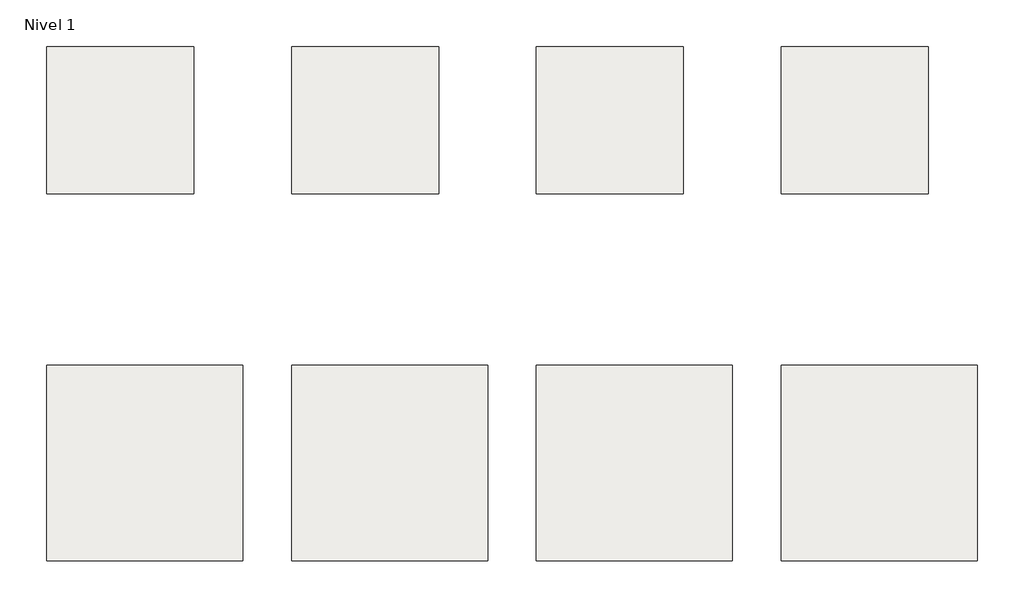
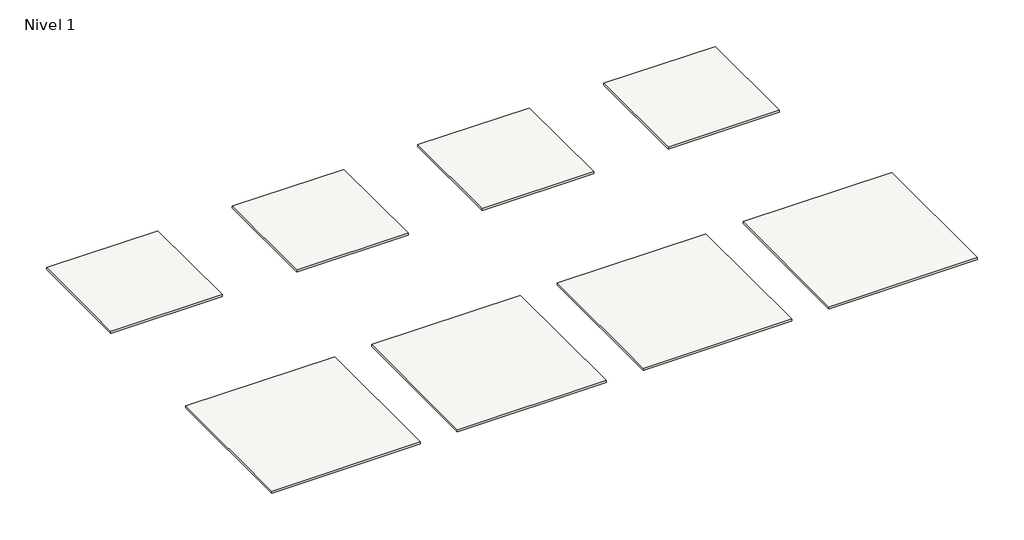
# One storey: 8 slabs.
"""IFC4 building model written with IfcOpenShell, lengths in millimetres."""

import ifcopenshell
import ifcopenshell.guid

model = None  # the IFC model being written
_history = None  # IfcOwnerHistory: only IFC2X3 demands one
_inside = {}  # id of a spatial element -> (the spatial element, [elements in it])
_under = {}  # id of a project, library or spatial element -> (it, [spatial elements below it])
_declared = {}  # id of a project -> (the project, [libraries it declares])
_typed = {}  # id of a type object -> (the type object, [elements of that type])
_made_of = {}  # id of a material, layer set ... -> (it, [elements and type objects made of it])


def new_model(schema):
    """Start an empty IFC model of exactly this schema.

    Asked for "IFC4X3", IfcOpenShell would pick the latest addendum, in which some entities
    have other attributes; the version numbers below select the first issue.
    IFC2X3 requires an IfcOwnerHistory on every rooted entity: one is made here for all.
    """
    global model, _history
    if schema == "IFC4X3":
        model = ifcopenshell.file(schema_version=(4, 3, 0, 0))
    else:
        model = ifcopenshell.file(schema=schema)
    _inside.clear()
    _under.clear()
    _declared.clear()
    _typed.clear()
    _made_of.clear()
    _history = None
    if model.schema == "IFC2X3":
        org = make("IfcOrganization", Name="unknown")
        user = make(
            "IfcPersonAndOrganization",
            ThePerson=make("IfcPerson", FamilyName="unknown"),
            TheOrganization=org,
        )
        app = make(
            "IfcApplication",
            ApplicationDeveloper=org,
            Version="unknown",
            ApplicationFullName="unknown",
            ApplicationIdentifier="unknown",
        )
        _history = make(
            "IfcOwnerHistory",
            OwningUser=user,
            OwningApplication=app,
            ChangeAction="ADDED",
            CreationDate=0,
        )
    return model


def make(cls, **values):
    """One entity of the class cls with the attributes given. An attribute that is None is left unset."""
    return model.create_entity(
        cls, **{name: value for name, value in values.items() if value is not None}
    )


def rooted(cls, **values):
    """An entity with a GlobalId (a new one), such as an element, a storey or a relation."""
    return make(cls, GlobalId=ifcopenshell.guid.new(), OwnerHistory=_history, **values)


def si_unit(unit_type, name, prefix=None):
    """IfcSIUnit, for example si_unit("LENGTHUNIT", "METRE", prefix="MILLI")."""
    return make("IfcSIUnit", UnitType=unit_type, Prefix=prefix, Name=name)


def assignment(units):
    """IfcUnitAssignment: the units of a project."""
    return None if units is None else make("IfcUnitAssignment", Units=units)


def point(xyz):
    """IfcCartesianPoint."""
    return None if xyz is None else make("IfcCartesianPoint", Coordinates=xyz)


def direction(xyz):
    """IfcDirection."""
    return None if xyz is None else make("IfcDirection", DirectionRatios=xyz)


def frame(location, z_axis=None, x_axis=None):
    """IfcAxis2Placement3D, a coordinate frame: its origin and axes. An axis left out is left unset."""
    return make(
        "IfcAxis2Placement3D",
        Location=point(location),
        Axis=direction(z_axis),
        RefDirection=direction(x_axis),
    )


def origin():
    """The frame at (0, 0, 0) with its axes left unset."""
    return frame((0.0, 0.0, 0.0))


def place(relative_to, where):
    """IfcLocalPlacement: puts the frame where relative to a parent placement (None: the world)."""
    return make(
        "IfcLocalPlacement", PlacementRelTo=relative_to, RelativePlacement=where
    )


def context(
    kind, dimensions, precision=None, world=None, true_north=None, identifier=None
):
    """IfcGeometricRepresentationContext, for example the 3D "Model" context."""
    return make(
        "IfcGeometricRepresentationContext",
        ContextIdentifier=identifier,
        ContextType=kind,
        CoordinateSpaceDimension=dimensions,
        Precision=precision,
        WorldCoordinateSystem=world,
        TrueNorth=true_north,
    )


def project(units=None, contexts=None):
    """IfcProject with its units and contexts."""
    return rooted(
        "IfcProject",
        Name="project",
        RepresentationContexts=contexts,
        UnitsInContext=assignment(units),
    )


def spatial(cls, under=None, at=None, **own):
    """A site, building, storey or space (cls), placed at a placement, below another one or the project."""
    s = rooted(cls, ObjectPlacement=at, **own)
    if under is not None:
        _under.setdefault(under.id(), (under, []))[1].append(s)
    return s


def polyline(points):
    """IfcPolyline through the points."""
    return make("IfcPolyline", Points=[point(p) for p in points])


def outline(outer, holes=None, kind="AREA"):
    """IfcArbitraryClosedProfileDef: a profile drawn as a closed curve; with holes, ...WithVoids."""
    if holes is None:
        return make("IfcArbitraryClosedProfileDef", ProfileType=kind, OuterCurve=outer)
    return make(
        "IfcArbitraryProfileDefWithVoids",
        ProfileType=kind,
        OuterCurve=outer,
        InnerCurves=holes,
    )


def extrude(swept, where, along, depth):
    """IfcExtrudedAreaSolid: the profile swept, set in the frame where, extruded along a direction by depth."""
    return make(
        "IfcExtrudedAreaSolid",
        SweptArea=swept,
        Position=where,
        ExtrudedDirection=direction(along),
        Depth=depth,
    )


def shape(context_of_items, identifier, shape_type, items):
    """IfcShapeRepresentation: the items that make up one representation, for example the "Body"."""
    return make(
        "IfcShapeRepresentation",
        ContextOfItems=context_of_items,
        RepresentationIdentifier=identifier,
        RepresentationType=shape_type,
        Items=items,
    )


def made_of(thing, what):
    """Note that an element or type object is made of a material, layer set ...; save() writes the relation."""
    if what is not None:
        _made_of.setdefault(what.id(), (what, []))[1].append(thing)
    return thing


def element(
    cls,
    number,
    at=None,
    inside=None,
    cuts=None,
    type_object=None,
    material=None,
    context=None,
    identifier="Body",
    shape_type=None,
    held_by="IfcProductDefinitionShape",
    body=None,
    shapes=None,
    **own,
):
    """One element of the class cls, such as IfcWall. Its Tag is "e" and its number.

    at: its placement. inside: the storey or other place that contains it. cuts: it is an
    opening in that element (IfcRelVoidsElement). A single representation is given by context,
    identifier, shape_type and body (its items); several are given by shapes. held_by: the class
    of the entity that holds the representations. save() writes the other relations.
    """
    e = rooted(cls, Tag="e%d" % number, ObjectPlacement=at, **own)
    if body is not None:
        shapes = [shape(context, identifier, shape_type, body)]
    if shapes is not None:
        e.Representation = make(held_by, Representations=shapes)
    if inside is not None:
        _inside.setdefault(inside.id(), (inside, []))[1].append(e)
    if cuts is not None:
        rooted(
            "IfcRelVoidsElement", RelatingBuildingElement=cuts, RelatedOpeningElement=e
        )
    if type_object is not None:
        _typed.setdefault(type_object.id(), (type_object, []))[1].append(e)
    return made_of(e, material)


def aggregate(whole, parts):
    """IfcRelAggregates: a whole, such as a stair, and the parts it consists of."""
    return rooted("IfcRelAggregates", RelatingObject=whole, RelatedObjects=parts)


def save(model, path):
    """Write the relations noted so far, then the file.

    IfcRelAggregates (storeys below a building ...), IfcRelContainedInSpatialStructure (elements
    in a storey), IfcRelDefinesByType, IfcRelAssociatesMaterial and IfcRelDeclares: one each for
    every whole, place, type object, material and project.
    """
    for whole, parts in _under.values():
        aggregate(whole, parts)
    for where, things in _inside.values():
        rooted(
            "IfcRelContainedInSpatialStructure",
            RelatedElements=things,
            RelatingStructure=where,
        )
    for kind, things in _typed.values():
        rooted("IfcRelDefinesByType", RelatedObjects=things, RelatingType=kind)
    for what, things in _made_of.values():
        rooted("IfcRelAssociatesMaterial", RelatedObjects=things, RelatingMaterial=what)
    for by, libraries in _declared.values():
        rooted("IfcRelDeclares", RelatingContext=by, RelatedDefinitions=libraries)
    model.write(path)


model = new_model("IFC4")

# Units and contexts
model_context = context("Model", 3, world=origin())
ifc_project = project(units=[si_unit("LENGTHUNIT", "METRE", prefix="MILLI")], contexts=[model_context])

# Site, building, storey
site = spatial("IfcSite", under=ifc_project)
building = spatial("IfcBuilding", under=site)
storey = spatial("IfcBuildingStorey", under=building, Name="Nivel 1", Elevation=0.0)

# Slabs
placement = place(None, origin())
element("IfcSlab", 1, ObjectType="Habana Cemento 60X60 Rect.", at=placement, inside=storey, context=model_context, shape_type="SweptSolid", body=[
    extrude(outline(polyline([(0.0, 600.0), (600.0, 600.0), (600.0, 0.0), (0.0, 0.0), (0.0, 600.0)])), frame((0.0, 0.0, -10.0), z_axis=(0.0, 0.0, 1.0), x_axis=(1.0, 0.0, 0.0)), (0.0, 0.0, 1.0), 10.0),
])
element("IfcSlab", 2, ObjectType="Habana Copper 60X60 Rect.", at=placement, inside=storey, context=model_context, shape_type="SweptSolid", body=[
    extrude(outline(polyline([(1000.0, 600.0), (1600.0, 600.0), (1600.0, 0.0), (1000.0, 0.0), (1000.0, 600.0)])), frame((0.0, 0.0, -10.0), z_axis=(0.0, 0.0, 1.0), x_axis=(1.0, 0.0, 0.0)), (0.0, 0.0, 1.0), 10.0),
])
element("IfcSlab", 3, ObjectType="Habana Blanco 60X60 Rect.", at=placement, inside=storey, context=model_context, shape_type="SweptSolid", body=[
    extrude(outline(polyline([(2000.0, 600.0), (2600.0, 600.0), (2600.0, 0.0), (2000.0, 0.0), (2000.0, 600.0)])), frame((0.0, 0.0, -10.0), z_axis=(0.0, 0.0, 1.0), x_axis=(1.0, 0.0, 0.0)), (0.0, 0.0, 1.0), 10.0),
])
element("IfcSlab", 4, ObjectType="Habana Negro 60X60 Rect.", at=placement, inside=storey, context=model_context, shape_type="SweptSolid", body=[
    extrude(outline(polyline([(3000.0, 600.0), (3600.0, 600.0), (3600.0, 0.0), (3000.0, 0.0), (3000.0, 600.0)])), frame((0.0, 0.0, -10.0), z_axis=(0.0, 0.0, 1.0), x_axis=(1.0, 0.0, 0.0)), (0.0, 0.0, 1.0), 10.0),
])
element("IfcSlab", 5, ObjectType="Habana Cemento 80X80 Rect.", at=placement, inside=storey, context=model_context, shape_type="SweptSolid", body=[
    extrude(outline(polyline([(0.0, -700.0), (800.0, -700.0), (800.0, -1500.0), (0.0, -1500.0), (0.0, -700.0)])), frame((0.0, 0.0, -11.3), z_axis=(0.0, 0.0, 1.0), x_axis=(1.0, 0.0, 0.0)), (0.0, 0.0, 1.0), 11.3),
])
element("IfcSlab", 6, ObjectType="Habana Copper 80X80 Rect.", at=placement, inside=storey, context=model_context, shape_type="SweptSolid", body=[
    extrude(outline(polyline([(1000.0, -700.0), (1800.0, -700.0), (1800.0, -1500.0), (1000.0, -1500.0), (1000.0, -700.0)])), frame((0.0, 0.0, -11.3), z_axis=(0.0, 0.0, 1.0), x_axis=(1.0, 0.0, 0.0)), (0.0, 0.0, 1.0), 11.3),
])
element("IfcSlab", 7, ObjectType="Habana Blanco 80X80 Rect.", at=placement, inside=storey, context=model_context, shape_type="SweptSolid", body=[
    extrude(outline(polyline([(2000.0, -700.0), (2800.0, -700.0), (2800.0, -1500.0), (2000.0, -1500.0), (2000.0, -700.0)])), frame((0.0, 0.0, -11.3), z_axis=(0.0, 0.0, 1.0), x_axis=(1.0, 0.0, 0.0)), (0.0, 0.0, 1.0), 11.3),
])
element("IfcSlab", 8, ObjectType="Habana Negro 80X80 Rect.", at=placement, inside=storey, context=model_context, shape_type="SweptSolid", body=[
    extrude(outline(polyline([(3000.0, -700.0), (3800.0, -700.0), (3800.0, -1500.0), (3000.0, -1500.0), (3000.0, -700.0)])), frame((0.0, 0.0, -11.3), z_axis=(0.0, 0.0, 1.0), x_axis=(1.0, 0.0, 0.0)), (0.0, 0.0, 1.0), 11.3),
])

save(model, "model.ifc")
